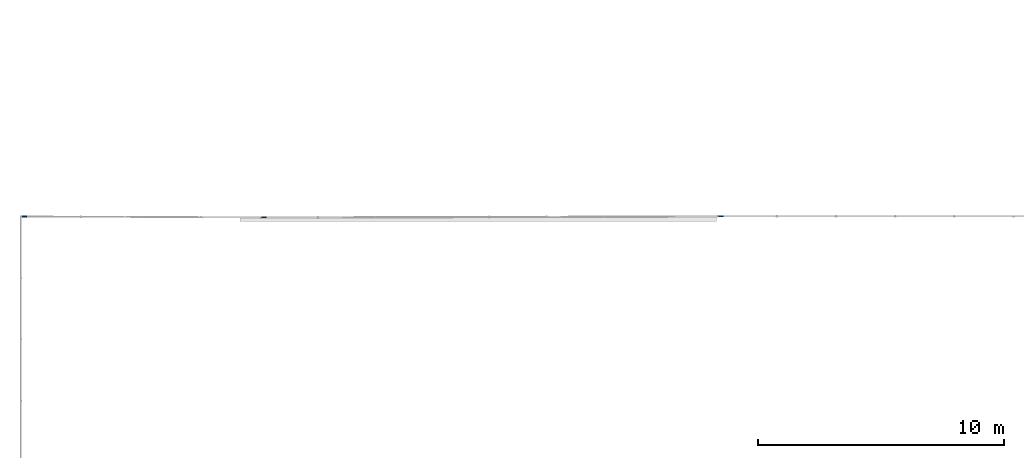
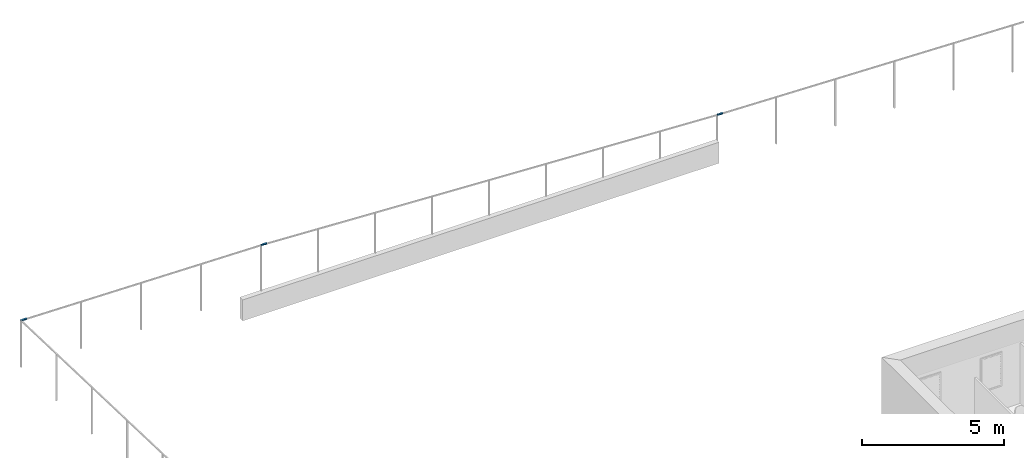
# One storey, part 79 of 91: 3 building element parts, 1 element without a shape of its own.
"""IFC2X3 building model written with IfcOpenShell, lengths in metres."""

from ifc_helpers import new_model, entity, si_unit, converted_unit, derived_unit, money_unit, direction, frame, origin_with_axes, place, context, subcontext, project, spatial, faceted_brep, material, type_object, element, aggregate, save


model = new_model("IFC2X3")

# Units and contexts
model_context = context("Model", 3, precision=1e-05, world=origin_with_axes(), true_north=direction((0.0, 1.0)))
body_context = subcontext(model_context, "Body", "Model", "MODEL_VIEW")
ifc_project = project(units=[si_unit("LENGTHUNIT", "METRE"), si_unit("AREAUNIT", "SQUARE_METRE"), si_unit("VOLUMEUNIT", "CUBIC_METRE"), converted_unit("PLANEANGLEUNIT", "DEGREE", entity("IfcPlaneAngleMeasure", 0.0174532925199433), si_unit("PLANEANGLEUNIT", "RADIAN"), dimensions=[0, 0, 0, 0, 0, 0, 0]), money_unit("EUR"), converted_unit("TIMEUNIT", "Year", entity("IfcTimeMeasure", 31557600.0), si_unit("TIMEUNIT", "SECOND"), dimensions=[0, 0, 1, 0, 0, 0, 0]), si_unit("MASSUNIT", "GRAM", prefix="KILO"), si_unit("THERMODYNAMICTEMPERATUREUNIT", "DEGREE_CELSIUS"), si_unit("LUMINOUSINTENSITYUNIT", "LUMEN"), si_unit("ENERGYUNIT", "JOULE", prefix="MEGA"), derived_unit("THERMALCONDUCTANCEUNIT", [(si_unit("POWERUNIT", "WATT"), 1), (si_unit("LENGTHUNIT", "METRE"), -1), (si_unit("THERMODYNAMICTEMPERATUREUNIT", "KELVIN"), -1)]), derived_unit("SPECIFICHEATCAPACITYUNIT", [(si_unit("ENERGYUNIT", "JOULE"), 1), (si_unit("MASSUNIT", "GRAM", prefix="KILO"), -1), (si_unit("THERMODYNAMICTEMPERATUREUNIT", "KELVIN"), -1)]), derived_unit("MASSDENSITYUNIT", [(si_unit("MASSUNIT", "GRAM", prefix="KILO"), 1), (si_unit("VOLUMEUNIT", "CUBIC_METRE"), -1)])], contexts=[model_context])

# Site, building, storey
site_placement = place(None, origin_with_axes())
site = spatial("IfcSite", under=ifc_project, at=site_placement, Name="Site", CompositionType="ELEMENT")
building_placement = place(site_placement, origin_with_axes())
building = spatial("IfcBuilding", under=site, at=building_placement, Name="Bâtiment", CompositionType="ELEMENT")
storey_placement = place(building_placement, origin_with_axes())
storey = spatial("IfcBuildingStorey", under=building, at=storey_placement, Name="RDC", CompositionType="ELEMENT", Elevation=0.0)

# Proxy, building element parts
building_element_proxy_type = type_object("IfcBuildingElementProxyType", Name="Type de garde-corps", PredefinedType="NOTDEFINED")
proxy_placement = place(storey_placement, frame((79.63337255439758, 3.614023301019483, -2.37161404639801), z_axis=(0.0, 0.0, 1.0), x_axis=(1.0, 0.0, 0.0)))
proxy = element("IfcBuildingElementProxy", 1, at=proxy_placement, inside=storey, type_object=building_element_proxy_type, Name="RAMPE-004")
ifc_material = material(Name="Acier Galva")
building_element_part_1_placement = place(proxy_placement, origin_with_axes())
building_element_part_1 = element("IfcBuildingElementPart", 2, at=building_element_part_1_placement, material=ifc_material, Name="Acier Galva", context=body_context, shape_type="Brep", body=[
    faceted_brep([(-51.20530849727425, 3.414297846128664, 4.31016728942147), (-51.25530849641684, 3.414307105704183, 4.261574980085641), (-51.25530849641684, 3.414307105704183, 4.266585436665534), (-51.43096590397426, 3.41433884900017, 4.26658543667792), (-51.20530849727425, 3.414297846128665, 4.316585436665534), (-51.20531775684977, 3.364297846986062, 4.31016728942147), (-51.25531775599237, 3.36430710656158, 4.261574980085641), (-51.25531775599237, 3.36430710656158, 4.266585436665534), (-51.43091230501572, 3.3643388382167, 4.26658543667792), (-51.42971394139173, 3.414340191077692, 4.316585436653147), (-51.20531775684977, 3.364297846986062, 4.316585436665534), (-51.42966034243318, 3.364340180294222, 4.316585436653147)], [[[0, 1, 2, 3, 4]], [[0, 5, 6, 1]], [[1, 6, 7, 2]], [[2, 7, 8, 3]], [[4, 3, 9]], [[5, 0, 4, 10]], [[6, 5, 10, 11, 7]], [[7, 11, 8]], [[9, 3, 8, 11]], [[10, 4, 9, 11]]]),
])
building_element_part_2_placement = place(proxy_placement, origin_with_axes())
building_element_part_2 = element("IfcBuildingElementPart", 3, at=building_element_part_2_placement, material=ifc_material, Name="Acier Galva", context=body_context, shape_type="Brep", body=[
    faceted_brep([(-69.7448352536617, 3.371653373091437, 5.234355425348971), (-69.79483511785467, 3.371536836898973, 5.186798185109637), (-69.79483511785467, 3.371536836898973, 5.195594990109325), (-69.96995600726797, 3.371129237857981, 5.195594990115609), (-69.7448352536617, 3.371653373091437, 5.245594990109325), (-69.74471871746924, 3.321653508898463, 5.234355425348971), (-69.79471858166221, 3.321536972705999, 5.186798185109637), (-69.79471858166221, 3.321536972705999, 5.195594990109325), (-69.96998415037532, 3.321129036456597, 5.195594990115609), (-69.96956859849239, 3.371129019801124, 5.245594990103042), (-69.74471871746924, 3.321653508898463, 5.245594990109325), (-69.96959674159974, 3.32112881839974, 5.245594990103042)], [[[0, 1, 2, 3, 4]], [[0, 5, 6, 1]], [[1, 6, 7, 2]], [[2, 7, 8, 3]], [[4, 3, 9]], [[5, 0, 4, 10]], [[6, 5, 10, 11, 7]], [[7, 11, 8]], [[9, 3, 8, 11]], [[10, 4, 9, 11]]]),
])
building_element_part_3_placement = place(proxy_placement, origin_with_axes())
building_element_part_3 = element("IfcBuildingElementPart", 4, at=building_element_part_3_placement, material=ifc_material, Name="Acier Galva", context=body_context, shape_type="Brep", body=[
    faceted_brep([(-79.46947710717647, 3.403967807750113, 5.392819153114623), (-79.51947680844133, 3.404140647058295, 5.343588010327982), (-79.51947680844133, 3.404140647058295, 5.347264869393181), (-79.71995594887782, 3.404427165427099, 5.347268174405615), (-79.46947710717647, 3.403967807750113, 5.39726486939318), (-79.46964994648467, 3.35396810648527, 5.392819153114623), (-79.5196496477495, 3.354140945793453, 5.343588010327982), (-79.5196496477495, 3.354140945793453, 5.347264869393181), (-79.66998160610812, 3.354254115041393, 5.347268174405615), (-79.71914254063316, 3.405237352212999, 5.397261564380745), (-79.46964994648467, 3.35396810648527, 5.39726486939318), (-79.66916819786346, 3.355064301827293, 5.397261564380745)], [[[0, 1, 2, 3, 4]], [[0, 5, 6, 1]], [[1, 6, 7, 2]], [[2, 8, 3]], [[4, 3, 9]], [[5, 0, 4, 10]], [[6, 5, 10, 11, 7]], [[2, 7, 8]], [[9, 3, 8, 11]], [[10, 4, 9]], [[10, 9, 11]], [[7, 11, 8]]]),
])
aggregate(proxy, [building_element_part_1, building_element_part_2, building_element_part_3])

save(model, "model.ifc")
